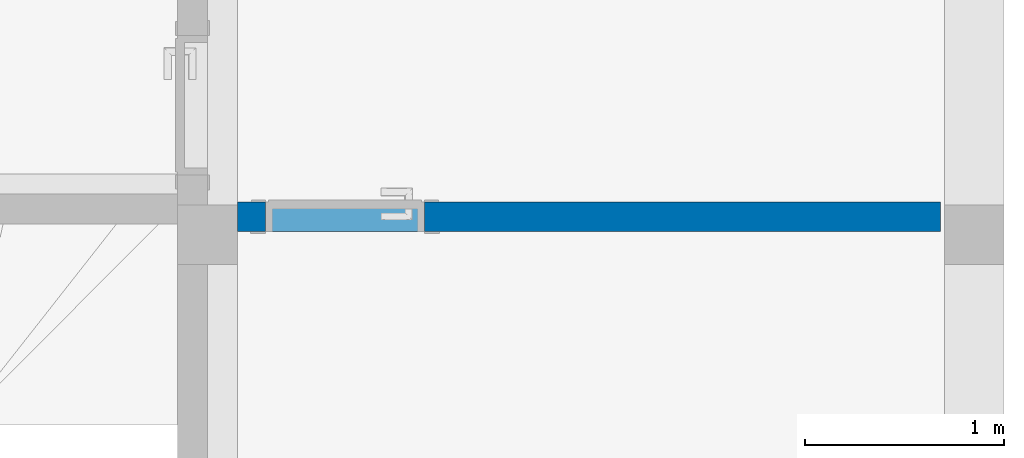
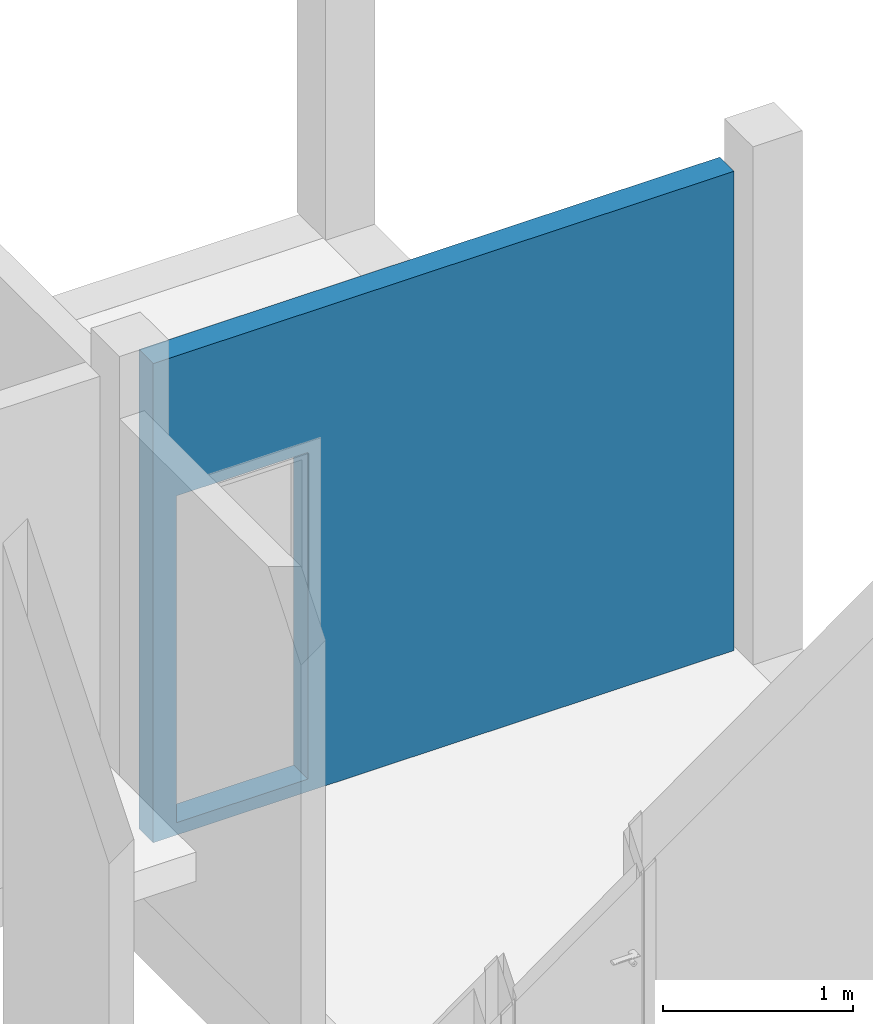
# One storey, part 11 of 11: 1 wall, 1 opening.
"""IFC2X3 building model written with IfcOpenShell, lengths in metres."""

from ifc_helpers import new_model, entity, si_unit, converted_unit, derived_unit, direction, frame, frame_2d, origin, place, context, subcontext, project, spatial, rectangle, extrude, material, layer, layer_set, layer_usage, type_object, element, save


model = new_model("IFC2X3")

# Units and contexts
model_context = context("Model", 3, precision=1e-05, world=origin(), true_north=direction((6.12303176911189e-17, 1.0)))
context_of_model = context(None, 3, precision=1e-05, world=origin(), true_north=direction((6.12303176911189e-17, 1.0)))
body_context = subcontext(model_context, "Body", "Model", "MODEL_VIEW")
ifc_project = project(units=[si_unit("LENGTHUNIT", "METRE"), si_unit("AREAUNIT", "SQUARE_METRE"), si_unit("VOLUMEUNIT", "CUBIC_METRE"), converted_unit("PLANEANGLEUNIT", "DEGREE", entity("IfcRatioMeasure", 0.0174532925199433), si_unit("PLANEANGLEUNIT", "RADIAN"), dimensions=[0, 0, 0, 0, 0, 0, 0]), si_unit("MASSUNIT", "GRAM", prefix="KILO"), si_unit("TIMEUNIT", "SECOND"), si_unit("FREQUENCYUNIT", "HERTZ"), si_unit("THERMODYNAMICTEMPERATUREUNIT", "DEGREE_CELSIUS"), derived_unit("THERMALTRANSMITTANCEUNIT", [(si_unit("MASSUNIT", "GRAM", prefix="KILO"), 1), (si_unit("THERMODYNAMICTEMPERATUREUNIT", "KELVIN"), -1), (si_unit("TIMEUNIT", "SECOND"), -3)]), derived_unit("VOLUMETRICFLOWRATEUNIT", [(si_unit("LENGTHUNIT", "METRE"), 3), (si_unit("TIMEUNIT", "SECOND"), -1)]), si_unit("ELECTRICCURRENTUNIT", "AMPERE"), si_unit("ELECTRICVOLTAGEUNIT", "VOLT"), si_unit("POWERUNIT", "WATT"), si_unit("FORCEUNIT", "NEWTON", prefix="KILO"), si_unit("ILLUMINANCEUNIT", "LUX"), si_unit("LUMINOUSFLUXUNIT", "LUMEN"), si_unit("LUMINOUSINTENSITYUNIT", "CANDELA"), si_unit("PRESSUREUNIT", "PASCAL")], contexts=[model_context, context_of_model])

# Site, building, storey
site_placement = place(None, origin())
site = spatial("IfcSite", under=ifc_project, at=site_placement, Name="Default", CompositionType="ELEMENT")
building_placement = place(site_placement, origin())
building = spatial("IfcBuilding", under=site, at=building_placement, CompositionType="ELEMENT")
storey_placement = place(building_placement, frame((0.0, 0.0, 3.45)))
storey = spatial("IfcBuildingStorey", under=building, at=storey_placement, Name="02.ES.PLANTA PRIMERA", CompositionType="ELEMENT", Elevation=3.45)

# Wall, opening
ifc_material = material(Name="Muro por defecto")
ifc_layer = layer(ifc_material, 0.15)
ifc_layer_set = layer_set([ifc_layer], Name="Muro básico:Por defecto - 15 cm")
ifc_layer_usage = layer_usage(ifc_layer_set, "AXIS2", "NEGATIVE", 0.075)
wall_type = type_object("IfcWallType", Name="Muro básico:Por defecto - 15 cm", PredefinedType="STANDARD", material=ifc_layer_set)
wall_placement = place(storey_placement, frame((11.715, 8.69000000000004, 0.0)))
wall = element("IfcWallStandardCase", 1, at=wall_placement, inside=storey, type_object=wall_type, material=ifc_layer_usage, Name="Muro básico:Por defecto - 15 cm", ObjectType="Muro básico:Por defecto - 15 cm", context=body_context, shape_type="SweptSolid", body=[
    extrude(rectangle(XDim=3.53000000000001, YDim=0.150000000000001, at=frame_2d((1.765, -3.46944695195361e-17), x_axis=(-1.0, 0.0))), origin(), (0.0, 0.0, 1.0), 3.08),
])
opening_placement = place(wall_placement, frame((0.139999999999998, -0.0750000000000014, 0.0799999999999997)))
element("IfcOpeningElement", 2, at=opening_placement, cuts=wall, Name="Puerta de 1 hoja:80 x 210 cm:1", ObjectType="Opening", context=body_context, shape_type="SweptSolid", body=[
    extrude(rectangle(XDim=2.09999999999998, YDim=0.8, at=frame_2d((1.04999999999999, 0.4), x_axis=(1.0, 0.0))), frame((0.0, 0.0, 0.0), z_axis=(0.0, 1.0, 0.0), x_axis=(0.0, 0.0, 1.0)), (0.0, 0.0, 1.0), 0.15),
])

save(model, "model.ifc")
